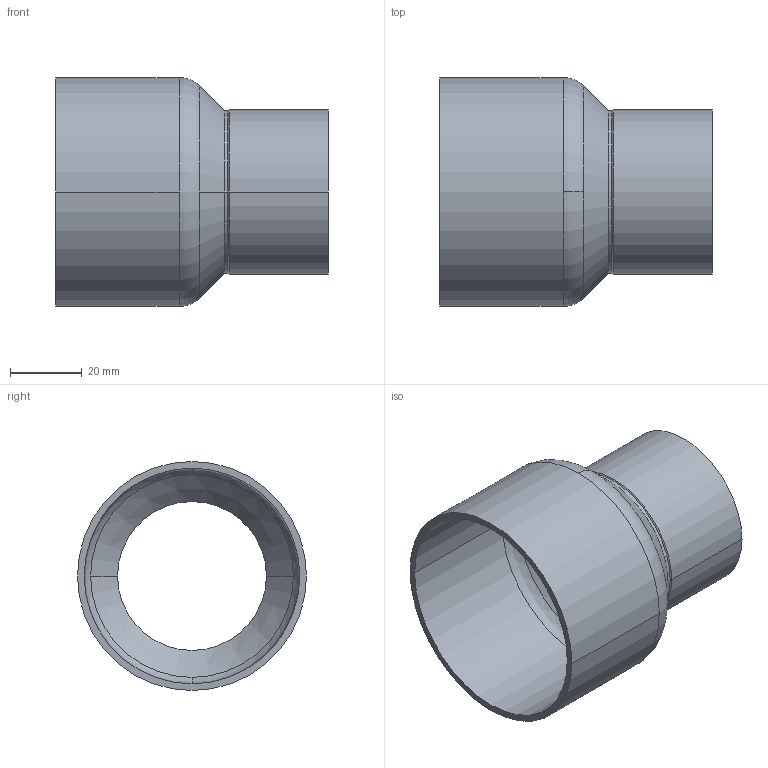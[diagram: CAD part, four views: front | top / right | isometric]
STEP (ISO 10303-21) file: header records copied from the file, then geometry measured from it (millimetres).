
FILE_DESCRIPTION((''),'2;1');
FILE_NAME('G:\Technics\CAD\Bauteile\Serie 15243\152436442.stp','2005-10-21T12:49:47',('boden'),(''),'Autodesk Inventor 8','Autodesk Inventor 8','');
FILE_SCHEMA(('AUTOMOTIVE_DESIGN { 1 0 10303 214 1 1 1 1 }'));
Length unit declared in the file: millimetre
Products named in the file (1): 152436442
Bounding box: 76.21 x 63.96 x 63.96 mm (x, y, z)
Volume: 25003.3 mm3; surface area: 27647.1 mm2
Topology: 1 solids, 1 shells, 26 faces, 60 edges, 36 vertices
Faces by surface type: cylinder 12, cone 8, bspline 2, torus 2, plane 2
Entity records: 855 total; most frequent: CARTESIAN_POINT 211, DIRECTION 150, ORIENTED_EDGE 120, AXIS2_PLACEMENT_3D 65, EDGE_CURVE 60, CIRCLE 40, VERTEX_POINT 36, EDGE_LOOP 28
